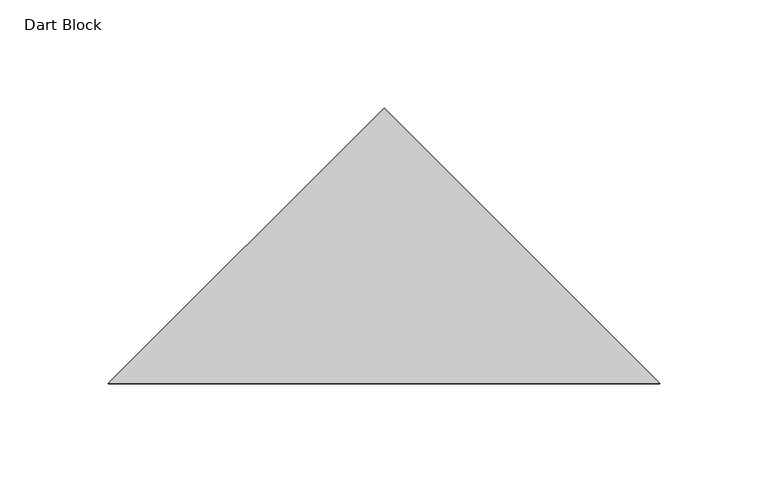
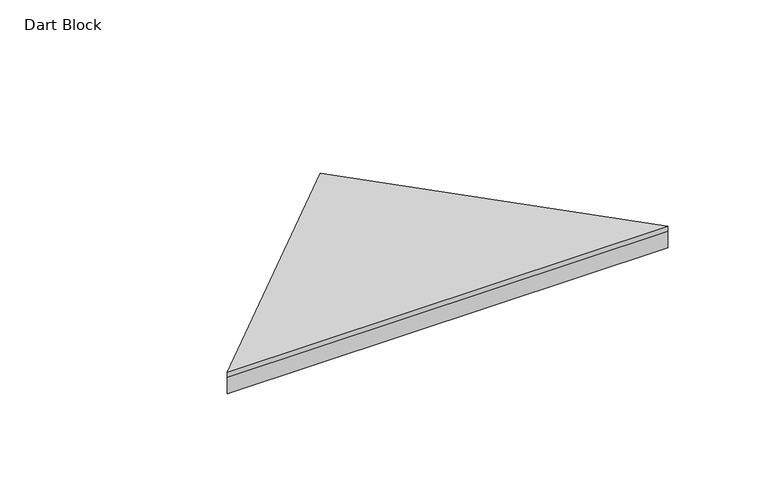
"""IFC4 building model written with IfcOpenShell, lengths in millimetres: proxy geometry, FilzFelt_Dart_Block : Dart Block."""

from ifc_helpers import new_model, si_unit, frame, origin, origin_with_axes, place, context, project, spatial, polyline, outline, extrude, source, transform, mapped, element, save


def dart_block_6d389e56(model_context):
    return source(origin(), model_context, "Body", "SweptSolid", [
        extrude(outline(polyline([(0.0, 190.5), (127.0, 63.5), (-127.0, 63.5), (0.0, 190.5)])), frame((0.0, 0.0, 10.0210937), z_axis=(0.0, 0.0, 1.0), x_axis=(1.0, 0.0, 0.0)), (0.0, 0.0, 1.0), 2.9765625),
        extrude(outline(polyline([(-127.0, 63.5), (0.0, 190.5), (127.0, 63.5), (-127.0, 63.5)])), origin_with_axes(), (0.0, 0.0, 1.0), 10.0210938),
    ])


if __name__ == "__main__":
    model = new_model("IFC4")
    model_context = context("Model", 3, world=origin())
    ifc_project = project(units=[si_unit("LENGTHUNIT", "METRE", prefix="MILLI")], contexts=[model_context])
    site = spatial("IfcSite", under=ifc_project)
    building = spatial("IfcBuilding", under=site)
    placement = place(None, origin())
    dart_block_shape = dart_block_6d389e56(model_context)
    element("IfcBuildingElementProxy", 1, Name="FilzFelt_Dart_Block : Dart Block", ObjectType="FilzFelt_Dart_Block : Dart Block", at=placement, inside=building, context=model_context, shape_type="MappedRepresentation", body=[
        mapped(dart_block_shape, transform((0.0, 0.0, 0.0), x_axis=(1.0, 0.0, 0.0), y_axis=(0.0, 1.0, 0.0), z_axis=(0.0, 0.0, 1.0))),
    ])
    save(model, "model.ifc")
